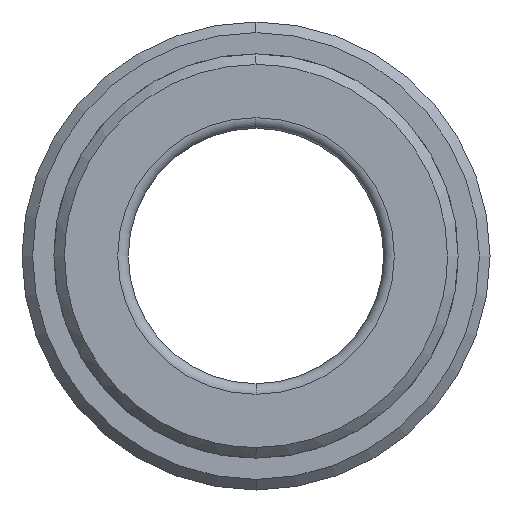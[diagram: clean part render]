
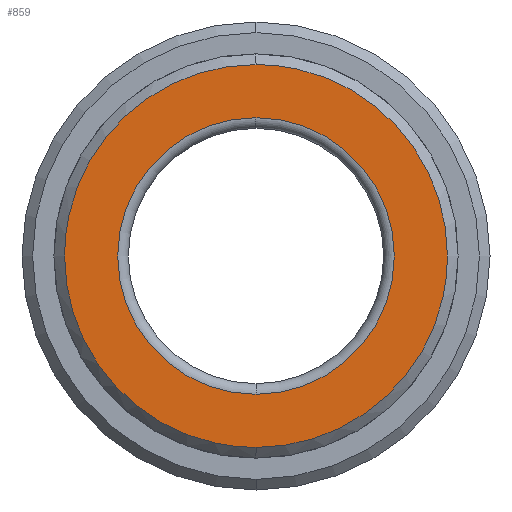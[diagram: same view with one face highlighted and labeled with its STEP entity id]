
A CAD part, front view. The second image highlights one B-rep face of the part: STEP entity #859.
In plain terms, the highlighted planar face has unit normal (0, -1, 0).
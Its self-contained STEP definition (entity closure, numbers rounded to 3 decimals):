
#643=CARTESIAN_POINT('Vertex',(0.,0.,-13.)) ;
#646=CARTESIAN_POINT('Axis2P3D Location',(0.,0.,0.)) ;
#650=CARTESIAN_POINT('Vertex',(13.,0.,0.)) ;
#653=CARTESIAN_POINT('Axis2P3D Location',(0.,0.,0.)) ;
#657=CARTESIAN_POINT('Vertex',(0.,0.,13.)) ;
#679=CARTESIAN_POINT('Axis2P3D Location',(0.,0.,0.)) ;
#683=CARTESIAN_POINT('Vertex',(-13.,0.,0.)) ;
#686=CARTESIAN_POINT('Axis2P3D Location',(0.,0.,0.)) ;
#766=CARTESIAN_POINT('Axis2P3D Location',(-13.,0.,0.)) ;
#772=CARTESIAN_POINT('Control Point',(18.,0.,0.)) ;
#773=CARTESIAN_POINT('Control Point',(18.,0.,1.663)) ;
#774=CARTESIAN_POINT('Control Point',(17.808,0.,3.326)) ;
#775=CARTESIAN_POINT('Control Point',(17.424,0.,4.959)) ;
#776=CARTESIAN_POINT('Control Point',(16.286,0.,8.107)) ;
#777=CARTESIAN_POINT('Control Point',(14.46,0.,10.913)) ;
#778=CARTESIAN_POINT('Control Point',(13.388,0.,12.204)) ;
#779=CARTESIAN_POINT('Control Point',(10.967,0.,14.515)) ;
#780=CARTESIAN_POINT('Control Point',(8.082,0.,16.213)) ;
#781=CARTESIAN_POINT('Control Point',(6.547,0.,16.891)) ;
#782=CARTESIAN_POINT('Control Point',(4.307,0.,17.585)) ;
#783=CARTESIAN_POINT('Control Point',(1.998,0.,17.907)) ;
#784=CARTESIAN_POINT('Control Point',(1.333,0.,17.969)) ;
#785=CARTESIAN_POINT('Control Point',(0.667,0.,18.)) ;
#786=CARTESIAN_POINT('Control Point',(0.,0.,18.)) ;
#787=CARTESIAN_POINT('Vertex',(18.,0.,0.)) ;
#789=CARTESIAN_POINT('Vertex',(0.,0.,18.)) ;
#793=CARTESIAN_POINT('Control Point',(0.,0.,18.)) ;
#794=CARTESIAN_POINT('Control Point',(-0.996,0.,18.)) ;
#795=CARTESIAN_POINT('Control Point',(-1.992,0.,17.931)) ;
#796=CARTESIAN_POINT('Control Point',(-2.982,0.,17.793)) ;
#797=CARTESIAN_POINT('Control Point',(-5.59,0.,17.244)) ;
#798=CARTESIAN_POINT('Control Point',(-8.064,0.,16.222)) ;
#799=CARTESIAN_POINT('Control Point',(-9.53,0.,15.406)) ;
#800=CARTESIAN_POINT('Control Point',(-12.248,0.,13.451)) ;
#801=CARTESIAN_POINT('Control Point',(-14.448,0.,10.928)) ;
#802=CARTESIAN_POINT('Control Point',(-15.397,0.,9.545)) ;
#803=CARTESIAN_POINT('Control Point',(-16.804,0.,6.877)) ;
#804=CARTESIAN_POINT('Control Point',(-17.63,0.,3.984)) ;
#805=CARTESIAN_POINT('Control Point',(-17.877,0.,2.666)) ;
#806=CARTESIAN_POINT('Control Point',(-18.,0.,1.333)) ;
#807=CARTESIAN_POINT('Control Point',(-18.,0.,0.)) ;
#808=CARTESIAN_POINT('Vertex',(-18.,0.,0.)) ;
#812=CARTESIAN_POINT('Control Point',(-18.,0.,0.)) ;
#813=CARTESIAN_POINT('Control Point',(-18.,0.,-1.663)) ;
#814=CARTESIAN_POINT('Control Point',(-17.808,0.,-3.326)) ;
#815=CARTESIAN_POINT('Control Point',(-17.424,0.,-4.959)) ;
#816=CARTESIAN_POINT('Control Point',(-16.286,0.,-8.107)) ;
#817=CARTESIAN_POINT('Control Point',(-14.46,0.,-10.913)) ;
#818=CARTESIAN_POINT('Control Point',(-13.388,0.,-12.204)) ;
#819=CARTESIAN_POINT('Control Point',(-10.967,0.,-14.515)) ;
#820=CARTESIAN_POINT('Control Point',(-8.082,0.,-16.213)) ;
#821=CARTESIAN_POINT('Control Point',(-6.547,0.,-16.891)) ;
#822=CARTESIAN_POINT('Control Point',(-4.307,0.,-17.585)) ;
#823=CARTESIAN_POINT('Control Point',(-1.998,0.,-17.907)) ;
#824=CARTESIAN_POINT('Control Point',(-1.333,0.,-17.969)) ;
#825=CARTESIAN_POINT('Control Point',(-0.667,0.,-18.)) ;
#826=CARTESIAN_POINT('Control Point',(0.,0.,-18.)) ;
#827=CARTESIAN_POINT('Vertex',(0.,0.,-18.)) ;
#831=CARTESIAN_POINT('Control Point',(0.,0.,-18.)) ;
#832=CARTESIAN_POINT('Control Point',(0.996,0.,-18.)) ;
#833=CARTESIAN_POINT('Control Point',(1.992,0.,-17.931)) ;
#834=CARTESIAN_POINT('Control Point',(2.982,0.,-17.793)) ;
#835=CARTESIAN_POINT('Control Point',(5.59,0.,-17.244)) ;
#836=CARTESIAN_POINT('Control Point',(8.064,0.,-16.222)) ;
#837=CARTESIAN_POINT('Control Point',(9.53,0.,-15.406)) ;
#838=CARTESIAN_POINT('Control Point',(12.248,0.,-13.451)) ;
#839=CARTESIAN_POINT('Control Point',(14.448,0.,-10.928)) ;
#840=CARTESIAN_POINT('Control Point',(15.397,0.,-9.545)) ;
#841=CARTESIAN_POINT('Control Point',(16.804,0.,-6.877)) ;
#842=CARTESIAN_POINT('Control Point',(17.63,0.,-3.984)) ;
#843=CARTESIAN_POINT('Control Point',(17.877,0.,-2.666)) ;
#844=CARTESIAN_POINT('Control Point',(18.,0.,-1.333)) ;
#845=CARTESIAN_POINT('Control Point',(18.,0.,0.)) ;
#647=DIRECTION('Axis2P3D Direction',(0.,-1.,0.)) ;
#654=DIRECTION('Axis2P3D Direction',(0.,-1.,0.)) ;
#680=DIRECTION('Axis2P3D Direction',(0.,-1.,0.)) ;
#687=DIRECTION('Axis2P3D Direction',(0.,-1.,0.)) ;
#767=DIRECTION('Axis2P3D Direction',(0.,1.,0.)) ;
#768=DIRECTION('Axis2P3D XDirection',(1.,0.,-0.)) ;
#648=AXIS2_PLACEMENT_3D('Circle Axis2P3D',#646,#647,$) ;
#655=AXIS2_PLACEMENT_3D('Circle Axis2P3D',#653,#654,$) ;
#681=AXIS2_PLACEMENT_3D('Circle Axis2P3D',#679,#680,$) ;
#688=AXIS2_PLACEMENT_3D('Circle Axis2P3D',#686,#687,$) ;
#769=AXIS2_PLACEMENT_3D('Plane Axis2P3D',#766,#767,#768) ;
#848=ORIENTED_EDGE('',*,*,#791,.T.) ;
#849=ORIENTED_EDGE('',*,*,#810,.T.) ;
#850=ORIENTED_EDGE('',*,*,#829,.T.) ;
#851=ORIENTED_EDGE('',*,*,#846,.T.) ;
#854=ORIENTED_EDGE('',*,*,#652,.F.) ;
#855=ORIENTED_EDGE('',*,*,#690,.F.) ;
#856=ORIENTED_EDGE('',*,*,#685,.F.) ;
#857=ORIENTED_EDGE('',*,*,#659,.F.) ;
#858=FACE_BOUND('',#853,.T.) ;
#859=ADVANCED_FACE('CF 450 24x80',(#852,#858),#770,.F.) ;
#771=B_SPLINE_CURVE_WITH_KNOTS('',5,(#772,#773,#774,#775,#776,#777,#778,#779,#780,#781,#782,#783,#784,#785,#786),.UNSPECIFIED.,.F.,.U.,(6,3,3,3,6),(0.,11.757,23.515,35.272,39.986),.UNSPECIFIED.) ;
#792=B_SPLINE_CURVE_WITH_KNOTS('',5,(#793,#794,#795,#796,#797,#798,#799,#800,#801,#802,#803,#804,#805,#806,#807),.UNSPECIFIED.,.F.,.U.,(6,3,3,3,6),(39.986,47.03,58.787,70.545,79.971),.UNSPECIFIED.) ;
#811=B_SPLINE_CURVE_WITH_KNOTS('',5,(#812,#813,#814,#815,#816,#817,#818,#819,#820,#821,#822,#823,#824,#825,#826),.UNSPECIFIED.,.F.,.U.,(6,3,3,3,6),(0.,11.757,23.515,35.272,39.986),.UNSPECIFIED.) ;
#830=B_SPLINE_CURVE_WITH_KNOTS('',5,(#831,#832,#833,#834,#835,#836,#837,#838,#839,#840,#841,#842,#843,#844,#845),.UNSPECIFIED.,.F.,.U.,(6,3,3,3,6),(39.986,47.03,58.787,70.545,79.971),.UNSPECIFIED.) ;
#649=CIRCLE('generated circle',#648,13.) ;
#656=CIRCLE('generated circle',#655,13.) ;
#682=CIRCLE('generated circle',#681,13.) ;
#689=CIRCLE('generated circle',#688,13.) ;
#652=EDGE_CURVE('',#644,#651,#649,.T.) ;
#659=EDGE_CURVE('',#651,#658,#656,.T.) ;
#685=EDGE_CURVE('',#658,#684,#682,.T.) ;
#690=EDGE_CURVE('',#684,#644,#689,.T.) ;
#791=EDGE_CURVE('',#788,#790,#771,.T.) ;
#810=EDGE_CURVE('',#790,#809,#792,.T.) ;
#829=EDGE_CURVE('',#809,#828,#811,.T.) ;
#846=EDGE_CURVE('',#828,#788,#830,.T.) ;
#847=EDGE_LOOP('',(#848,#849,#850,#851)) ;
#853=EDGE_LOOP('',(#854,#855,#856,#857)) ;
#852=FACE_OUTER_BOUND('',#847,.T.) ;
#770=PLANE('Plane',#769) ;
#644=VERTEX_POINT('',#643) ;
#651=VERTEX_POINT('',#650) ;
#658=VERTEX_POINT('',#657) ;
#684=VERTEX_POINT('',#683) ;
#788=VERTEX_POINT('',#787) ;
#790=VERTEX_POINT('',#789) ;
#809=VERTEX_POINT('',#808) ;
#828=VERTEX_POINT('',#827) ;
